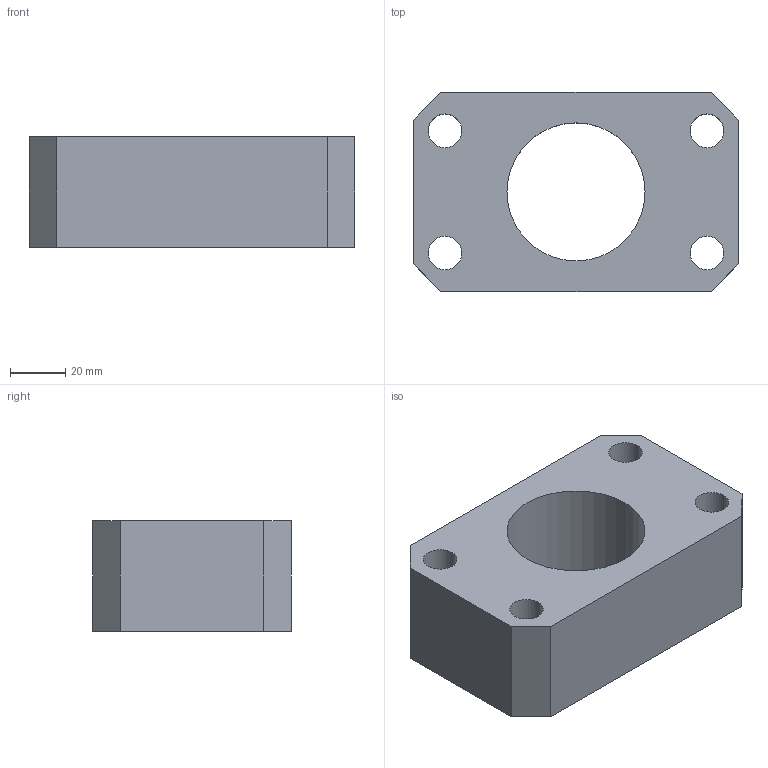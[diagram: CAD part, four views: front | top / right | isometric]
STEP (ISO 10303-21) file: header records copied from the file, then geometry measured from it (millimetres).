
FILE_DESCRIPTION (( 'STEP AP214' ), '1' );
FILE_NAME ('YYDK-500-0041-2 丝杠底座（500T）.STEP', '2024-12-14T08:26:31', ( 'Windows 用户' ), ( '' ), 'SwSTEP 2.0', 'SolidWorks 2020', '' );
FILE_SCHEMA (( 'AUTOMOTIVE_DESIGN' ));
Length unit declared in the file: millimetre
Products named in the file (1): YYDK-500-0041-2 丝杠底座（500T）
Bounding box: 118 x 72 x 40 mm (x, y, z)
Volume: 226147.6 mm3; surface area: 38567 mm2
Topology: 1 solids, 1 shells, 25 faces, 64 edges, 42 vertices
Faces by surface type: cylinder 12, plane 11, cone 2
Entity records: 822 total; most frequent: DIRECTION 142, CARTESIAN_POINT 132, ORIENTED_EDGE 128, EDGE_CURVE 64, AXIS2_PLACEMENT_3D 52, VERTEX_POINT 42, LINE 38, VECTOR 38
